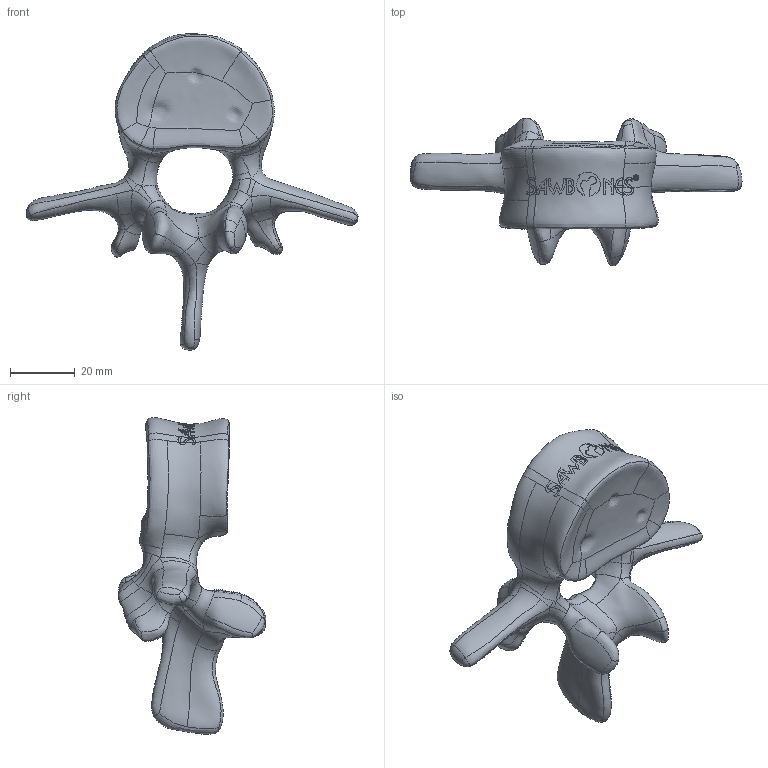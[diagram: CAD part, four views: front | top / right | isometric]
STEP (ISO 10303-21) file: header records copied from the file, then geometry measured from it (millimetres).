
FILE_DESCRIPTION (( 'STEP AP203' ), '1' );
FILE_NAME ('3429-2.STEP', '2025-06-12T14:12:35', ( '' ), ( '' ), 'SwSTEP 2.0', 'SolidWorks 2024', '' );
FILE_SCHEMA (( 'CONFIG_CONTROL_DESIGN' ));
Products named in the file (1): 3429-2
Bounding box: 102.78 x 45.68 x 97.96 mm (x, y, z)
Volume: 54961.7 mm3; surface area: 14070.6 mm2
Topology: 1 solids, 1 shells, 407 faces, 1051 edges, 655 vertices
Faces by surface type: bspline 406, plane 1
Entity records: 287396 total; most frequent: CARTESIAN_POINT 280800, ORIENTED_EDGE 2102, EDGE_CURVE 1051, B_SPLINE_CURVE_WITH_KNOTS 1051, VERTEX_POINT 655, EDGE_LOOP 418, ADVANCED_FACE 407, FACE_OUTER_BOUND 407
